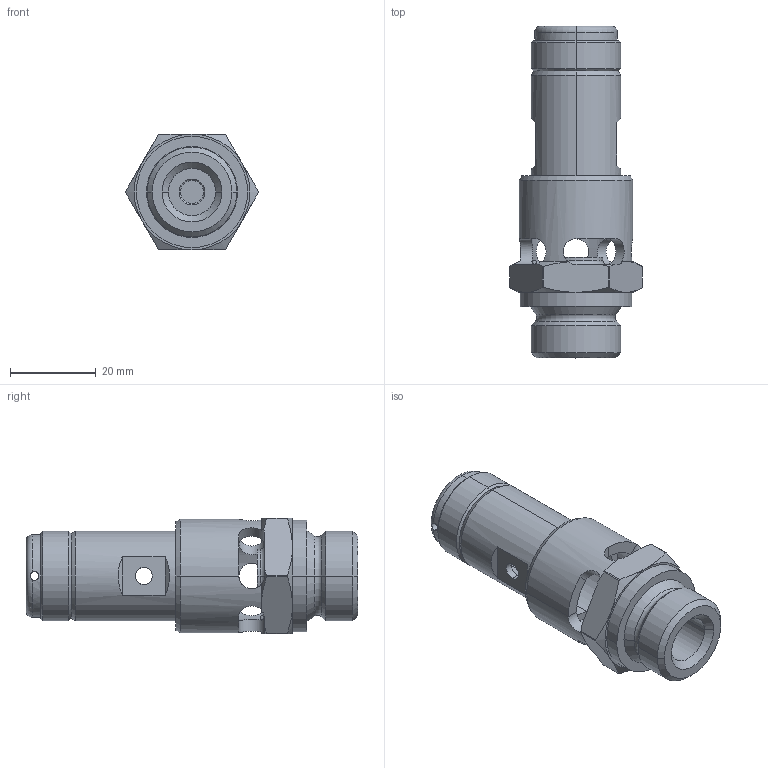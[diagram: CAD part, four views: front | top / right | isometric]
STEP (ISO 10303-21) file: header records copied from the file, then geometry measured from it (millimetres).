
FILE_DESCRIPTION((''),'2;1');
FILE_NAME('R412007698','2018-02-06T',('hug2hc'),(''),'CREO PARAMETRIC BY PTC INC, 2016260','CREO PARAMETRIC BY PTC INC, 2016260','');
FILE_SCHEMA(('CONFIG_CONTROL_DESIGN'));
Length unit declared in the file: millimetre
Products named in the file (1): R412007698
Bounding box: 31 x 77.5 x 27 mm (x, y, z)
Volume: 17818.8 mm3; surface area: 10941.3 mm2
Topology: 1 solids, 1 shells, 131 faces, 350 edges, 226 vertices
Faces by surface type: cylinder 50, cone 36, plane 35, torus 10
Entity records: 5416 total; most frequent: CARTESIAN_POINT 2085, ORIENTED_EDGE 700, DIRECTION 678, EDGE_CURVE 350, AXIS2_PLACEMENT_3D 285, VERTEX_POINT 226, CIRCLE 154, EDGE_LOOP 152
